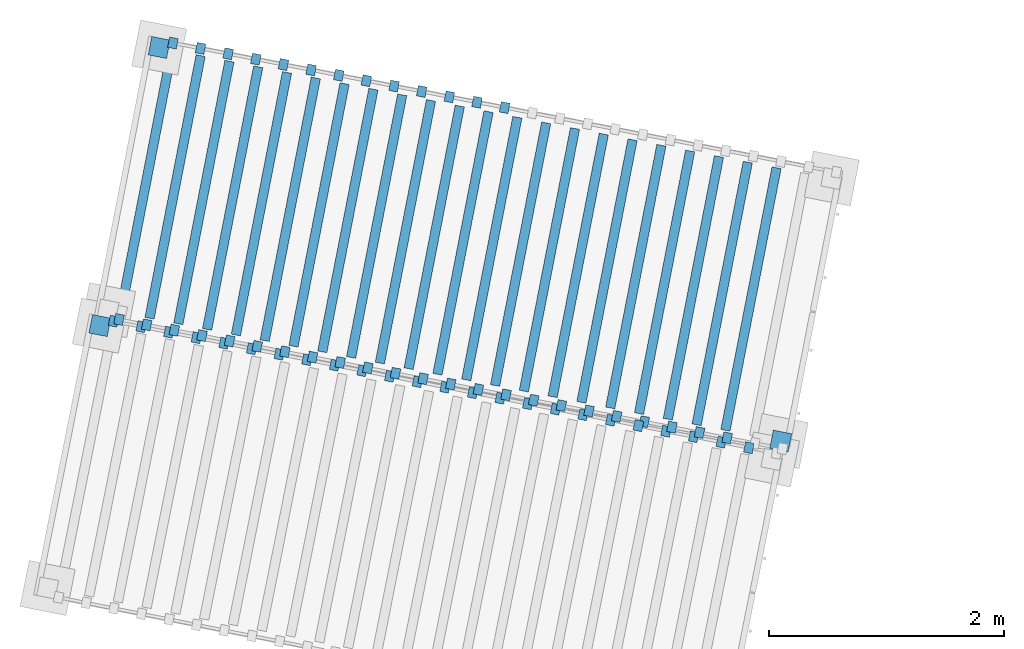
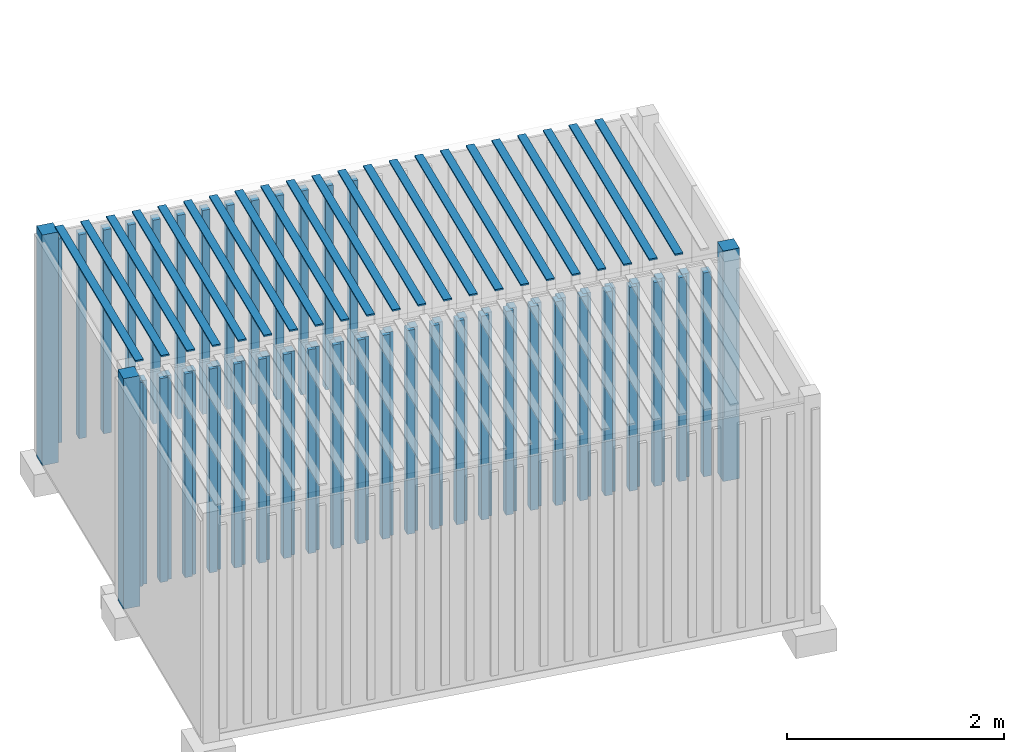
# One storey, part 83 of 142: 85 members, 2 elements without a shape of their own.
"""IFC4 building model written with IfcOpenShell, lengths in metres."""

from ifc_helpers import new_model, si_unit, direction, frame, origin_with_axes, place, context, subcontext, project, spatial, polyline, outline, extrude, material, element, aggregate, save


model = new_model("IFC4")

# Units and contexts
model_context = context("Model", 3, precision=1e-05, world=origin_with_axes(), true_north=direction((0.0, 1.0)))
body_context = subcontext(model_context, "Body", "Model", "MODEL_VIEW")
ifc_project = project(units=[si_unit("AREAUNIT", "SQUARE_METRE"), si_unit("VOLUMEUNIT", "CUBIC_METRE"), si_unit("LENGTHUNIT", "METRE")], contexts=[model_context])

# Site, building, storey
site_placement = place(None, origin_with_axes())
site = spatial("IfcSite", under=ifc_project, at=site_placement, Name="Lares · Rua das Mercês · artigo 4771")
building_placement = place(site_placement, frame((15.0, 9.7, 14.65), z_axis=(0.0, 0.0, 1.0), x_axis=(0.989015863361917, -0.147809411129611, 0.0)))
building = spatial("IfcBuilding", under=site, at=building_placement, Name="Casa Sobreposta")
storey_placement = place(building_placement, origin_with_axes())
storey = spatial("IfcBuildingStorey", under=building, at=storey_placement, Name="00 · Habitação e estacionamento", Elevation=14.65)

# Assembly, members
assembly_1_placement = place(storey_placement, frame((-14.4335953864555, 9.04888612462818, 0.0), z_axis=(0.0, 0.0, 1.0), x_axis=(0.999032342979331, -0.0439815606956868, 0.0)))
assembly_1 = element("IfcElementAssembly", 1, at=assembly_1_placement, inside=storey, Name="Contentor existente 1 · 6 m", ObjectType="EXISTING_SHIPPING_CONTAINER", PredefinedType="USERDEFINED")
ifc_material_1 = material(Name="Contentor · pintura 1", Category="steel")
member_1_placement = place(assembly_1_placement, frame((0.0, 0.0, -1.3), z_axis=(0.0, 0.0, 1.0), x_axis=(1.0, 0.0, 0.0)))
member_1 = element("IfcMember", 2, at=member_1_placement, material=ifc_material_1, Name="Contentor · canto", context=body_context, shape_type="SweptSolid", body=[
    extrude(outline(polyline([(0.16, 2.28), (0.16, 2.44), (0.0, 2.44), (0.0, 2.28), (0.16, 2.28)])), origin_with_axes(), (0.0, 0.0, 1.0), 2.59),
])
member_2_placement = place(assembly_1_placement, frame((0.0, 0.0, -1.3), z_axis=(0.0, 0.0, 1.0), x_axis=(1.0, 0.0, 0.0)))
member_2 = element("IfcMember", 3, at=member_2_placement, material=ifc_material_1, Name="Contentor · canto", context=body_context, shape_type="SweptSolid", body=[
    extrude(outline(polyline([(6.0, 0.0), (6.0, 0.16), (5.84, 0.16), (5.84, 0.0), (6.0, 0.0)])), origin_with_axes(), (0.0, 0.0, 1.0), 2.59),
])
member_3_placement = place(assembly_1_placement, frame((0.0, 0.0, -1.15), z_axis=(0.0, 0.0, 1.0), x_axis=(1.0, 0.0, 0.0)))
member_3 = element("IfcMember", 4, at=member_3_placement, material=ifc_material_1, Name="Contentor · nervura lateral", context=body_context, shape_type="SweptSolid", body=[
    extrude(outline(polyline([(0.225, -0.025), (0.225, 0.065), (0.15, 0.065), (0.15, -0.025), (0.225, -0.025)])), origin_with_axes(), (0.0, 0.0, 1.0), 2.29),
])
member_4_placement = place(assembly_1_placement, frame((0.0, 0.0, -1.15), z_axis=(0.0, 0.0, 1.0), x_axis=(1.0, 0.0, 0.0)))
member_4 = element("IfcMember", 5, at=member_4_placement, material=ifc_material_1, Name="Contentor · nervura lateral", context=body_context, shape_type="SweptSolid", body=[
    extrude(outline(polyline([(0.465, -0.025), (0.465, 0.065), (0.39, 0.065), (0.39, -0.025), (0.465, -0.025)])), origin_with_axes(), (0.0, 0.0, 1.0), 2.29),
])
member_5_placement = place(assembly_1_placement, frame((0.0, 0.0, -1.15), z_axis=(0.0, 0.0, 1.0), x_axis=(1.0, 0.0, 0.0)))
member_5 = element("IfcMember", 6, at=member_5_placement, material=ifc_material_1, Name="Contentor · nervura lateral", context=body_context, shape_type="SweptSolid", body=[
    extrude(outline(polyline([(0.705, -0.025), (0.705, 0.065), (0.63, 0.065), (0.63, -0.025), (0.705, -0.025)])), origin_with_axes(), (0.0, 0.0, 1.0), 2.29),
])
member_6_placement = place(assembly_1_placement, frame((0.0, 0.0, -1.15), z_axis=(0.0, 0.0, 1.0), x_axis=(1.0, 0.0, 0.0)))
member_6 = element("IfcMember", 7, at=member_6_placement, material=ifc_material_1, Name="Contentor · nervura lateral", context=body_context, shape_type="SweptSolid", body=[
    extrude(outline(polyline([(0.945, -0.025), (0.945, 0.065), (0.87, 0.065), (0.87, -0.025), (0.945, -0.025)])), origin_with_axes(), (0.0, 0.0, 1.0), 2.29),
])
member_7_placement = place(assembly_1_placement, frame((0.0, 0.0, -1.15), z_axis=(0.0, 0.0, 1.0), x_axis=(1.0, 0.0, 0.0)))
member_7 = element("IfcMember", 8, at=member_7_placement, material=ifc_material_1, Name="Contentor · nervura lateral", context=body_context, shape_type="SweptSolid", body=[
    extrude(outline(polyline([(1.185, -0.025), (1.185, 0.065), (1.11, 0.065), (1.11, -0.025), (1.185, -0.025)])), origin_with_axes(), (0.0, 0.0, 1.0), 2.29),
])
member_8_placement = place(assembly_1_placement, frame((0.0, 0.0, -1.15), z_axis=(0.0, 0.0, 1.0), x_axis=(1.0, 0.0, 0.0)))
member_8 = element("IfcMember", 9, at=member_8_placement, material=ifc_material_1, Name="Contentor · nervura lateral", context=body_context, shape_type="SweptSolid", body=[
    extrude(outline(polyline([(1.425, -0.025), (1.425, 0.065), (1.35, 0.065), (1.35, -0.025), (1.425, -0.025)])), origin_with_axes(), (0.0, 0.0, 1.0), 2.29),
])
member_9_placement = place(assembly_1_placement, frame((0.0, 0.0, -1.15), z_axis=(0.0, 0.0, 1.0), x_axis=(1.0, 0.0, 0.0)))
member_9 = element("IfcMember", 10, at=member_9_placement, material=ifc_material_1, Name="Contentor · nervura lateral", context=body_context, shape_type="SweptSolid", body=[
    extrude(outline(polyline([(1.665, -0.025), (1.665, 0.065), (1.59, 0.065), (1.59, -0.025), (1.665, -0.025)])), origin_with_axes(), (0.0, 0.0, 1.0), 2.29),
])
member_10_placement = place(assembly_1_placement, frame((0.0, 0.0, -1.15), z_axis=(0.0, 0.0, 1.0), x_axis=(1.0, 0.0, 0.0)))
member_10 = element("IfcMember", 11, at=member_10_placement, material=ifc_material_1, Name="Contentor · nervura lateral", context=body_context, shape_type="SweptSolid", body=[
    extrude(outline(polyline([(1.905, -0.025), (1.905, 0.065), (1.83, 0.065), (1.83, -0.025), (1.905, -0.025)])), origin_with_axes(), (0.0, 0.0, 1.0), 2.29),
])
member_11_placement = place(assembly_1_placement, frame((0.0, 0.0, -1.15), z_axis=(0.0, 0.0, 1.0), x_axis=(1.0, 0.0, 0.0)))
member_11 = element("IfcMember", 12, at=member_11_placement, material=ifc_material_1, Name="Contentor · nervura lateral", context=body_context, shape_type="SweptSolid", body=[
    extrude(outline(polyline([(2.145, -0.025), (2.145, 0.065), (2.07, 0.065), (2.07, -0.025), (2.145, -0.025)])), origin_with_axes(), (0.0, 0.0, 1.0), 2.29),
])
member_12_placement = place(assembly_1_placement, frame((0.0, 0.0, -1.15), z_axis=(0.0, 0.0, 1.0), x_axis=(1.0, 0.0, 0.0)))
member_12 = element("IfcMember", 13, at=member_12_placement, material=ifc_material_1, Name="Contentor · nervura lateral", context=body_context, shape_type="SweptSolid", body=[
    extrude(outline(polyline([(2.385, -0.025), (2.385, 0.065), (2.31, 0.065), (2.31, -0.025), (2.385, -0.025)])), origin_with_axes(), (0.0, 0.0, 1.0), 2.29),
])
member_13_placement = place(assembly_1_placement, frame((0.0, 0.0, -1.15), z_axis=(0.0, 0.0, 1.0), x_axis=(1.0, 0.0, 0.0)))
member_13 = element("IfcMember", 14, at=member_13_placement, material=ifc_material_1, Name="Contentor · nervura lateral", context=body_context, shape_type="SweptSolid", body=[
    extrude(outline(polyline([(2.625, -0.025), (2.625, 0.065), (2.55, 0.065), (2.55, -0.025), (2.625, -0.025)])), origin_with_axes(), (0.0, 0.0, 1.0), 2.29),
])
member_14_placement = place(assembly_1_placement, frame((0.0, 0.0, -1.15), z_axis=(0.0, 0.0, 1.0), x_axis=(1.0, 0.0, 0.0)))
member_14 = element("IfcMember", 15, at=member_14_placement, material=ifc_material_1, Name="Contentor · nervura lateral", context=body_context, shape_type="SweptSolid", body=[
    extrude(outline(polyline([(2.865, -0.025), (2.865, 0.065), (2.79, 0.065), (2.79, -0.025), (2.865, -0.025)])), origin_with_axes(), (0.0, 0.0, 1.0), 2.29),
])
member_15_placement = place(assembly_1_placement, frame((0.0, 0.0, -1.15), z_axis=(0.0, 0.0, 1.0), x_axis=(1.0, 0.0, 0.0)))
member_15 = element("IfcMember", 16, at=member_15_placement, material=ifc_material_1, Name="Contentor · nervura lateral", context=body_context, shape_type="SweptSolid", body=[
    extrude(outline(polyline([(3.105, -0.025), (3.105, 0.065), (3.03, 0.065), (3.03, -0.025), (3.105, -0.025)])), origin_with_axes(), (0.0, 0.0, 1.0), 2.29),
])
member_16_placement = place(assembly_1_placement, frame((0.0, 0.0, -1.15), z_axis=(0.0, 0.0, 1.0), x_axis=(1.0, 0.0, 0.0)))
member_16 = element("IfcMember", 17, at=member_16_placement, material=ifc_material_1, Name="Contentor · nervura lateral", context=body_context, shape_type="SweptSolid", body=[
    extrude(outline(polyline([(3.345, -0.025), (3.345, 0.065), (3.27, 0.065), (3.27, -0.025), (3.345, -0.025)])), origin_with_axes(), (0.0, 0.0, 1.0), 2.29),
])
member_17_placement = place(assembly_1_placement, frame((0.0, 0.0, -1.15), z_axis=(0.0, 0.0, 1.0), x_axis=(1.0, 0.0, 0.0)))
member_17 = element("IfcMember", 18, at=member_17_placement, material=ifc_material_1, Name="Contentor · nervura lateral", context=body_context, shape_type="SweptSolid", body=[
    extrude(outline(polyline([(3.585, -0.025), (3.585, 0.065), (3.51, 0.065), (3.51, -0.025), (3.585, -0.025)])), origin_with_axes(), (0.0, 0.0, 1.0), 2.29),
])
member_18_placement = place(assembly_1_placement, frame((0.0, 0.0, -1.15), z_axis=(0.0, 0.0, 1.0), x_axis=(1.0, 0.0, 0.0)))
member_18 = element("IfcMember", 19, at=member_18_placement, material=ifc_material_1, Name="Contentor · nervura lateral", context=body_context, shape_type="SweptSolid", body=[
    extrude(outline(polyline([(3.825, -0.025), (3.825, 0.065), (3.75, 0.065), (3.75, -0.025), (3.825, -0.025)])), origin_with_axes(), (0.0, 0.0, 1.0), 2.29),
])
member_19_placement = place(assembly_1_placement, frame((0.0, 0.0, -1.15), z_axis=(0.0, 0.0, 1.0), x_axis=(1.0, 0.0, 0.0)))
member_19 = element("IfcMember", 20, at=member_19_placement, material=ifc_material_1, Name="Contentor · nervura lateral", context=body_context, shape_type="SweptSolid", body=[
    extrude(outline(polyline([(4.065, -0.025), (4.065, 0.065), (3.99, 0.065), (3.99, -0.025), (4.065, -0.025)])), origin_with_axes(), (0.0, 0.0, 1.0), 2.29),
])
member_20_placement = place(assembly_1_placement, frame((0.0, 0.0, -1.15), z_axis=(0.0, 0.0, 1.0), x_axis=(1.0, 0.0, 0.0)))
member_20 = element("IfcMember", 21, at=member_20_placement, material=ifc_material_1, Name="Contentor · nervura lateral", context=body_context, shape_type="SweptSolid", body=[
    extrude(outline(polyline([(4.305, -0.025), (4.305, 0.065), (4.23, 0.065), (4.23, -0.025), (4.305, -0.025)])), origin_with_axes(), (0.0, 0.0, 1.0), 2.29),
])
member_21_placement = place(assembly_1_placement, frame((0.0, 0.0, -1.15), z_axis=(0.0, 0.0, 1.0), x_axis=(1.0, 0.0, 0.0)))
member_21 = element("IfcMember", 22, at=member_21_placement, material=ifc_material_1, Name="Contentor · nervura lateral", context=body_context, shape_type="SweptSolid", body=[
    extrude(outline(polyline([(4.545, -0.025), (4.545, 0.065), (4.47, 0.065), (4.47, -0.025), (4.545, -0.025)])), origin_with_axes(), (0.0, 0.0, 1.0), 2.29),
])
member_22_placement = place(assembly_1_placement, frame((0.0, 0.0, -1.15), z_axis=(0.0, 0.0, 1.0), x_axis=(1.0, 0.0, 0.0)))
member_22 = element("IfcMember", 23, at=member_22_placement, material=ifc_material_1, Name="Contentor · nervura lateral", context=body_context, shape_type="SweptSolid", body=[
    extrude(outline(polyline([(4.785, -0.025), (4.785, 0.065), (4.71, 0.065), (4.71, -0.025), (4.785, -0.025)])), origin_with_axes(), (0.0, 0.0, 1.0), 2.29),
])
member_23_placement = place(assembly_1_placement, frame((0.0, 0.0, -1.15), z_axis=(0.0, 0.0, 1.0), x_axis=(1.0, 0.0, 0.0)))
member_23 = element("IfcMember", 24, at=member_23_placement, material=ifc_material_1, Name="Contentor · nervura lateral", context=body_context, shape_type="SweptSolid", body=[
    extrude(outline(polyline([(5.025, -0.025), (5.025, 0.065), (4.95, 0.065), (4.95, -0.025), (5.025, -0.025)])), origin_with_axes(), (0.0, 0.0, 1.0), 2.29),
])
member_24_placement = place(assembly_1_placement, frame((0.0, 0.0, -1.15), z_axis=(0.0, 0.0, 1.0), x_axis=(1.0, 0.0, 0.0)))
member_24 = element("IfcMember", 25, at=member_24_placement, material=ifc_material_1, Name="Contentor · nervura lateral", context=body_context, shape_type="SweptSolid", body=[
    extrude(outline(polyline([(5.265, -0.025), (5.265, 0.065), (5.19, 0.065), (5.19, -0.025), (5.265, -0.025)])), origin_with_axes(), (0.0, 0.0, 1.0), 2.29),
])
member_25_placement = place(assembly_1_placement, frame((0.0, 0.0, -1.15), z_axis=(0.0, 0.0, 1.0), x_axis=(1.0, 0.0, 0.0)))
member_25 = element("IfcMember", 26, at=member_25_placement, material=ifc_material_1, Name="Contentor · nervura lateral", context=body_context, shape_type="SweptSolid", body=[
    extrude(outline(polyline([(5.505, -0.025), (5.505, 0.065), (5.43, 0.065), (5.43, -0.025), (5.505, -0.025)])), origin_with_axes(), (0.0, 0.0, 1.0), 2.29),
])
member_26_placement = place(assembly_1_placement, frame((0.0, 0.0, -1.15), z_axis=(0.0, 0.0, 1.0), x_axis=(1.0, 0.0, 0.0)))
member_26 = element("IfcMember", 27, at=member_26_placement, material=ifc_material_1, Name="Contentor · nervura lateral", context=body_context, shape_type="SweptSolid", body=[
    extrude(outline(polyline([(0.225, 2.375), (0.225, 2.465), (0.15, 2.465), (0.15, 2.375), (0.225, 2.375)])), origin_with_axes(), (0.0, 0.0, 1.0), 2.29),
])
member_27_placement = place(assembly_1_placement, frame((0.0, 0.0, -1.15), z_axis=(0.0, 0.0, 1.0), x_axis=(1.0, 0.0, 0.0)))
member_27 = element("IfcMember", 28, at=member_27_placement, material=ifc_material_1, Name="Contentor · nervura lateral", context=body_context, shape_type="SweptSolid", body=[
    extrude(outline(polyline([(0.465, 2.375), (0.465, 2.465), (0.39, 2.465), (0.39, 2.375), (0.465, 2.375)])), origin_with_axes(), (0.0, 0.0, 1.0), 2.29),
])
member_28_placement = place(assembly_1_placement, frame((0.0, 0.0, -1.15), z_axis=(0.0, 0.0, 1.0), x_axis=(1.0, 0.0, 0.0)))
member_28 = element("IfcMember", 29, at=member_28_placement, material=ifc_material_1, Name="Contentor · nervura lateral", context=body_context, shape_type="SweptSolid", body=[
    extrude(outline(polyline([(0.705, 2.375), (0.705, 2.465), (0.63, 2.465), (0.63, 2.375), (0.705, 2.375)])), origin_with_axes(), (0.0, 0.0, 1.0), 2.29),
])
member_29_placement = place(assembly_1_placement, frame((0.0, 0.0, -1.15), z_axis=(0.0, 0.0, 1.0), x_axis=(1.0, 0.0, 0.0)))
member_29 = element("IfcMember", 30, at=member_29_placement, material=ifc_material_1, Name="Contentor · nervura lateral", context=body_context, shape_type="SweptSolid", body=[
    extrude(outline(polyline([(0.945, 2.375), (0.945, 2.465), (0.87, 2.465), (0.87, 2.375), (0.945, 2.375)])), origin_with_axes(), (0.0, 0.0, 1.0), 2.29),
])
member_30_placement = place(assembly_1_placement, frame((0.0, 0.0, -1.15), z_axis=(0.0, 0.0, 1.0), x_axis=(1.0, 0.0, 0.0)))
member_30 = element("IfcMember", 31, at=member_30_placement, material=ifc_material_1, Name="Contentor · nervura lateral", context=body_context, shape_type="SweptSolid", body=[
    extrude(outline(polyline([(1.185, 2.375), (1.185, 2.465), (1.11, 2.465), (1.11, 2.375), (1.185, 2.375)])), origin_with_axes(), (0.0, 0.0, 1.0), 2.29),
])
member_31_placement = place(assembly_1_placement, frame((0.0, 0.0, -1.15), z_axis=(0.0, 0.0, 1.0), x_axis=(1.0, 0.0, 0.0)))
member_31 = element("IfcMember", 32, at=member_31_placement, material=ifc_material_1, Name="Contentor · nervura lateral", context=body_context, shape_type="SweptSolid", body=[
    extrude(outline(polyline([(1.425, 2.375), (1.425, 2.465), (1.35, 2.465), (1.35, 2.375), (1.425, 2.375)])), origin_with_axes(), (0.0, 0.0, 1.0), 2.29),
])
member_32_placement = place(assembly_1_placement, frame((0.0, 0.0, -1.15), z_axis=(0.0, 0.0, 1.0), x_axis=(1.0, 0.0, 0.0)))
member_32 = element("IfcMember", 33, at=member_32_placement, material=ifc_material_1, Name="Contentor · nervura lateral", context=body_context, shape_type="SweptSolid", body=[
    extrude(outline(polyline([(1.665, 2.375), (1.665, 2.465), (1.59, 2.465), (1.59, 2.375), (1.665, 2.375)])), origin_with_axes(), (0.0, 0.0, 1.0), 2.29),
])
member_33_placement = place(assembly_1_placement, frame((0.0, 0.0, -1.15), z_axis=(0.0, 0.0, 1.0), x_axis=(1.0, 0.0, 0.0)))
member_33 = element("IfcMember", 34, at=member_33_placement, material=ifc_material_1, Name="Contentor · nervura lateral", context=body_context, shape_type="SweptSolid", body=[
    extrude(outline(polyline([(1.905, 2.375), (1.905, 2.465), (1.83, 2.465), (1.83, 2.375), (1.905, 2.375)])), origin_with_axes(), (0.0, 0.0, 1.0), 2.29),
])
member_34_placement = place(assembly_1_placement, frame((0.0, 0.0, -1.15), z_axis=(0.0, 0.0, 1.0), x_axis=(1.0, 0.0, 0.0)))
member_34 = element("IfcMember", 35, at=member_34_placement, material=ifc_material_1, Name="Contentor · nervura lateral", context=body_context, shape_type="SweptSolid", body=[
    extrude(outline(polyline([(2.145, 2.375), (2.145, 2.465), (2.07, 2.465), (2.07, 2.375), (2.145, 2.375)])), origin_with_axes(), (0.0, 0.0, 1.0), 2.29),
])
member_35_placement = place(assembly_1_placement, frame((0.0, 0.0, -1.15), z_axis=(0.0, 0.0, 1.0), x_axis=(1.0, 0.0, 0.0)))
member_35 = element("IfcMember", 36, at=member_35_placement, material=ifc_material_1, Name="Contentor · nervura lateral", context=body_context, shape_type="SweptSolid", body=[
    extrude(outline(polyline([(2.385, 2.375), (2.385, 2.465), (2.31, 2.465), (2.31, 2.375), (2.385, 2.375)])), origin_with_axes(), (0.0, 0.0, 1.0), 2.29),
])
member_36_placement = place(assembly_1_placement, frame((0.0, 0.0, -1.15), z_axis=(0.0, 0.0, 1.0), x_axis=(1.0, 0.0, 0.0)))
member_36 = element("IfcMember", 37, at=member_36_placement, material=ifc_material_1, Name="Contentor · nervura lateral", context=body_context, shape_type="SweptSolid", body=[
    extrude(outline(polyline([(2.625, 2.375), (2.625, 2.465), (2.55, 2.465), (2.55, 2.375), (2.625, 2.375)])), origin_with_axes(), (0.0, 0.0, 1.0), 2.29),
])
member_37_placement = place(assembly_1_placement, frame((0.0, 0.0, -1.15), z_axis=(0.0, 0.0, 1.0), x_axis=(1.0, 0.0, 0.0)))
member_37 = element("IfcMember", 38, at=member_37_placement, material=ifc_material_1, Name="Contentor · nervura lateral", context=body_context, shape_type="SweptSolid", body=[
    extrude(outline(polyline([(2.865, 2.375), (2.865, 2.465), (2.79, 2.465), (2.79, 2.375), (2.865, 2.375)])), origin_with_axes(), (0.0, 0.0, 1.0), 2.29),
])
member_38_placement = place(assembly_1_placement, frame((0.0, 0.0, -1.15), z_axis=(0.0, 0.0, 1.0), x_axis=(1.0, 0.0, 0.0)))
member_38 = element("IfcMember", 39, at=member_38_placement, material=ifc_material_1, Name="Contentor · nervura lateral", context=body_context, shape_type="SweptSolid", body=[
    extrude(outline(polyline([(3.105, 2.375), (3.105, 2.465), (3.03, 2.465), (3.03, 2.375), (3.105, 2.375)])), origin_with_axes(), (0.0, 0.0, 1.0), 2.29),
])
member_39_placement = place(assembly_1_placement, frame((0.0, 0.0, 1.285), z_axis=(0.0, 0.0, 1.0), x_axis=(1.0, 0.0, 0.0)))
member_39 = element("IfcMember", 40, at=member_39_placement, material=ifc_material_1, Name="Contentor · nervura cobertura", context=body_context, shape_type="SweptSolid", body=[
    extrude(outline(polyline([(0.23, 0.08), (0.23, 2.36), (0.15, 2.36), (0.15, 0.08), (0.23, 0.08)])), origin_with_axes(), (0.0, 0.0, 1.0), 0.018),
])
member_40_placement = place(assembly_1_placement, frame((0.0, 0.0, 1.285), z_axis=(0.0, 0.0, 1.0), x_axis=(1.0, 0.0, 0.0)))
member_40 = element("IfcMember", 41, at=member_40_placement, material=ifc_material_1, Name="Contentor · nervura cobertura", context=body_context, shape_type="SweptSolid", body=[
    extrude(outline(polyline([(0.48, 0.08), (0.48, 2.36), (0.4, 2.36), (0.4, 0.08), (0.48, 0.08)])), origin_with_axes(), (0.0, 0.0, 1.0), 0.018),
])
member_41_placement = place(assembly_1_placement, frame((0.0, 0.0, 1.285), z_axis=(0.0, 0.0, 1.0), x_axis=(1.0, 0.0, 0.0)))
member_41 = element("IfcMember", 42, at=member_41_placement, material=ifc_material_1, Name="Contentor · nervura cobertura", context=body_context, shape_type="SweptSolid", body=[
    extrude(outline(polyline([(0.73, 0.08), (0.73, 2.36), (0.65, 2.36), (0.65, 0.08), (0.73, 0.08)])), origin_with_axes(), (0.0, 0.0, 1.0), 0.018),
])
member_42_placement = place(assembly_1_placement, frame((0.0, 0.0, 1.285), z_axis=(0.0, 0.0, 1.0), x_axis=(1.0, 0.0, 0.0)))
member_42 = element("IfcMember", 43, at=member_42_placement, material=ifc_material_1, Name="Contentor · nervura cobertura", context=body_context, shape_type="SweptSolid", body=[
    extrude(outline(polyline([(0.98, 0.08), (0.98, 2.36), (0.9, 2.36), (0.9, 0.08), (0.98, 0.08)])), origin_with_axes(), (0.0, 0.0, 1.0), 0.018),
])
member_43_placement = place(assembly_1_placement, frame((0.0, 0.0, 1.285), z_axis=(0.0, 0.0, 1.0), x_axis=(1.0, 0.0, 0.0)))
member_43 = element("IfcMember", 44, at=member_43_placement, material=ifc_material_1, Name="Contentor · nervura cobertura", context=body_context, shape_type="SweptSolid", body=[
    extrude(outline(polyline([(1.23, 0.08), (1.23, 2.36), (1.15, 2.36), (1.15, 0.08), (1.23, 0.08)])), origin_with_axes(), (0.0, 0.0, 1.0), 0.018),
])
member_44_placement = place(assembly_1_placement, frame((0.0, 0.0, 1.285), z_axis=(0.0, 0.0, 1.0), x_axis=(1.0, 0.0, 0.0)))
member_44 = element("IfcMember", 45, at=member_44_placement, material=ifc_material_1, Name="Contentor · nervura cobertura", context=body_context, shape_type="SweptSolid", body=[
    extrude(outline(polyline([(1.48, 0.08), (1.48, 2.36), (1.4, 2.36), (1.4, 0.08), (1.48, 0.08)])), origin_with_axes(), (0.0, 0.0, 1.0), 0.018),
])
member_45_placement = place(assembly_1_placement, frame((0.0, 0.0, 1.285), z_axis=(0.0, 0.0, 1.0), x_axis=(1.0, 0.0, 0.0)))
member_45 = element("IfcMember", 46, at=member_45_placement, material=ifc_material_1, Name="Contentor · nervura cobertura", context=body_context, shape_type="SweptSolid", body=[
    extrude(outline(polyline([(1.73, 0.08), (1.73, 2.36), (1.65, 2.36), (1.65, 0.08), (1.73, 0.08)])), origin_with_axes(), (0.0, 0.0, 1.0), 0.018),
])
member_46_placement = place(assembly_1_placement, frame((0.0, 0.0, 1.285), z_axis=(0.0, 0.0, 1.0), x_axis=(1.0, 0.0, 0.0)))
member_46 = element("IfcMember", 47, at=member_46_placement, material=ifc_material_1, Name="Contentor · nervura cobertura", context=body_context, shape_type="SweptSolid", body=[
    extrude(outline(polyline([(1.98, 0.08), (1.98, 2.36), (1.9, 2.36), (1.9, 0.08), (1.98, 0.08)])), origin_with_axes(), (0.0, 0.0, 1.0), 0.018),
])
member_47_placement = place(assembly_1_placement, frame((0.0, 0.0, 1.285), z_axis=(0.0, 0.0, 1.0), x_axis=(1.0, 0.0, 0.0)))
member_47 = element("IfcMember", 48, at=member_47_placement, material=ifc_material_1, Name="Contentor · nervura cobertura", context=body_context, shape_type="SweptSolid", body=[
    extrude(outline(polyline([(2.23, 0.08), (2.23, 2.36), (2.15, 2.36), (2.15, 0.08), (2.23, 0.08)])), origin_with_axes(), (0.0, 0.0, 1.0), 0.018),
])
member_48_placement = place(assembly_1_placement, frame((0.0, 0.0, 1.285), z_axis=(0.0, 0.0, 1.0), x_axis=(1.0, 0.0, 0.0)))
member_48 = element("IfcMember", 49, at=member_48_placement, material=ifc_material_1, Name="Contentor · nervura cobertura", context=body_context, shape_type="SweptSolid", body=[
    extrude(outline(polyline([(2.48, 0.08), (2.48, 2.36), (2.4, 2.36), (2.4, 0.08), (2.48, 0.08)])), origin_with_axes(), (0.0, 0.0, 1.0), 0.018),
])
member_49_placement = place(assembly_1_placement, frame((0.0, 0.0, 1.285), z_axis=(0.0, 0.0, 1.0), x_axis=(1.0, 0.0, 0.0)))
member_49 = element("IfcMember", 50, at=member_49_placement, material=ifc_material_1, Name="Contentor · nervura cobertura", context=body_context, shape_type="SweptSolid", body=[
    extrude(outline(polyline([(2.73, 0.08), (2.73, 2.36), (2.65, 2.36), (2.65, 0.08), (2.73, 0.08)])), origin_with_axes(), (0.0, 0.0, 1.0), 0.018),
])
member_50_placement = place(assembly_1_placement, frame((0.0, 0.0, 1.285), z_axis=(0.0, 0.0, 1.0), x_axis=(1.0, 0.0, 0.0)))
member_50 = element("IfcMember", 51, at=member_50_placement, material=ifc_material_1, Name="Contentor · nervura cobertura", context=body_context, shape_type="SweptSolid", body=[
    extrude(outline(polyline([(2.98, 0.08), (2.98, 2.36), (2.9, 2.36), (2.9, 0.08), (2.98, 0.08)])), origin_with_axes(), (0.0, 0.0, 1.0), 0.018),
])
member_51_placement = place(assembly_1_placement, frame((0.0, 0.0, 1.285), z_axis=(0.0, 0.0, 1.0), x_axis=(1.0, 0.0, 0.0)))
member_51 = element("IfcMember", 52, at=member_51_placement, material=ifc_material_1, Name="Contentor · nervura cobertura", context=body_context, shape_type="SweptSolid", body=[
    extrude(outline(polyline([(3.23, 0.08), (3.23, 2.36), (3.15, 2.36), (3.15, 0.08), (3.23, 0.08)])), origin_with_axes(), (0.0, 0.0, 1.0), 0.018),
])
member_52_placement = place(assembly_1_placement, frame((0.0, 0.0, 1.285), z_axis=(0.0, 0.0, 1.0), x_axis=(1.0, 0.0, 0.0)))
member_52 = element("IfcMember", 53, at=member_52_placement, material=ifc_material_1, Name="Contentor · nervura cobertura", context=body_context, shape_type="SweptSolid", body=[
    extrude(outline(polyline([(3.48, 0.08), (3.48, 2.36), (3.4, 2.36), (3.4, 0.08), (3.48, 0.08)])), origin_with_axes(), (0.0, 0.0, 1.0), 0.018),
])
member_53_placement = place(assembly_1_placement, frame((0.0, 0.0, 1.285), z_axis=(0.0, 0.0, 1.0), x_axis=(1.0, 0.0, 0.0)))
member_53 = element("IfcMember", 54, at=member_53_placement, material=ifc_material_1, Name="Contentor · nervura cobertura", context=body_context, shape_type="SweptSolid", body=[
    extrude(outline(polyline([(3.73, 0.08), (3.73, 2.36), (3.65, 2.36), (3.65, 0.08), (3.73, 0.08)])), origin_with_axes(), (0.0, 0.0, 1.0), 0.018),
])
member_54_placement = place(assembly_1_placement, frame((0.0, 0.0, 1.285), z_axis=(0.0, 0.0, 1.0), x_axis=(1.0, 0.0, 0.0)))
member_54 = element("IfcMember", 55, at=member_54_placement, material=ifc_material_1, Name="Contentor · nervura cobertura", context=body_context, shape_type="SweptSolid", body=[
    extrude(outline(polyline([(3.98, 0.08), (3.98, 2.36), (3.9, 2.36), (3.9, 0.08), (3.98, 0.08)])), origin_with_axes(), (0.0, 0.0, 1.0), 0.018),
])
member_55_placement = place(assembly_1_placement, frame((0.0, 0.0, 1.285), z_axis=(0.0, 0.0, 1.0), x_axis=(1.0, 0.0, 0.0)))
member_55 = element("IfcMember", 56, at=member_55_placement, material=ifc_material_1, Name="Contentor · nervura cobertura", context=body_context, shape_type="SweptSolid", body=[
    extrude(outline(polyline([(4.23, 0.08), (4.23, 2.36), (4.15, 2.36), (4.15, 0.08), (4.23, 0.08)])), origin_with_axes(), (0.0, 0.0, 1.0), 0.018),
])
member_56_placement = place(assembly_1_placement, frame((0.0, 0.0, 1.285), z_axis=(0.0, 0.0, 1.0), x_axis=(1.0, 0.0, 0.0)))
member_56 = element("IfcMember", 57, at=member_56_placement, material=ifc_material_1, Name="Contentor · nervura cobertura", context=body_context, shape_type="SweptSolid", body=[
    extrude(outline(polyline([(4.48, 0.08), (4.48, 2.36), (4.4, 2.36), (4.4, 0.08), (4.48, 0.08)])), origin_with_axes(), (0.0, 0.0, 1.0), 0.018),
])
member_57_placement = place(assembly_1_placement, frame((0.0, 0.0, 1.285), z_axis=(0.0, 0.0, 1.0), x_axis=(1.0, 0.0, 0.0)))
member_57 = element("IfcMember", 58, at=member_57_placement, material=ifc_material_1, Name="Contentor · nervura cobertura", context=body_context, shape_type="SweptSolid", body=[
    extrude(outline(polyline([(4.73, 0.08), (4.73, 2.36), (4.65, 2.36), (4.65, 0.08), (4.73, 0.08)])), origin_with_axes(), (0.0, 0.0, 1.0), 0.018),
])
member_58_placement = place(assembly_1_placement, frame((0.0, 0.0, 1.285), z_axis=(0.0, 0.0, 1.0), x_axis=(1.0, 0.0, 0.0)))
member_58 = element("IfcMember", 59, at=member_58_placement, material=ifc_material_1, Name="Contentor · nervura cobertura", context=body_context, shape_type="SweptSolid", body=[
    extrude(outline(polyline([(4.98, 0.08), (4.98, 2.36), (4.9, 2.36), (4.9, 0.08), (4.98, 0.08)])), origin_with_axes(), (0.0, 0.0, 1.0), 0.018),
])
member_59_placement = place(assembly_1_placement, frame((0.0, 0.0, 1.285), z_axis=(0.0, 0.0, 1.0), x_axis=(1.0, 0.0, 0.0)))
member_59 = element("IfcMember", 60, at=member_59_placement, material=ifc_material_1, Name="Contentor · nervura cobertura", context=body_context, shape_type="SweptSolid", body=[
    extrude(outline(polyline([(5.23, 0.08), (5.23, 2.36), (5.15, 2.36), (5.15, 0.08), (5.23, 0.08)])), origin_with_axes(), (0.0, 0.0, 1.0), 0.018),
])
member_60_placement = place(assembly_1_placement, frame((0.0, 0.0, 1.285), z_axis=(0.0, 0.0, 1.0), x_axis=(1.0, 0.0, 0.0)))
member_60 = element("IfcMember", 61, at=member_60_placement, material=ifc_material_1, Name="Contentor · nervura cobertura", context=body_context, shape_type="SweptSolid", body=[
    extrude(outline(polyline([(5.48, 0.08), (5.48, 2.36), (5.4, 2.36), (5.4, 0.08), (5.48, 0.08)])), origin_with_axes(), (0.0, 0.0, 1.0), 0.018),
])
aggregate(assembly_1, [member_1, member_2, member_3, member_4, member_5, member_6, member_7, member_8, member_9, member_10, member_11, member_12, member_13, member_14, member_15, member_16, member_17, member_18, member_19, member_20, member_21, member_22, member_23, member_24, member_25, member_26, member_27, member_28, member_29, member_30, member_31, member_32, member_33, member_34, member_35, member_36, member_37, member_38, member_39, member_40, member_41, member_42, member_43, member_44, member_45, member_46, member_47, member_48, member_49, member_50, member_51, member_52, member_53, member_54, member_55, member_56, member_57, member_58, member_59, member_60])

assembly_2_placement = place(storey_placement, frame((-14.5932944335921, 6.63122214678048, 0.0), z_axis=(0.0, 0.0, 1.0), x_axis=(0.998832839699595, -0.0483007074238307, 0.0)))
assembly_2 = element("IfcElementAssembly", 62, at=assembly_2_placement, inside=storey, Name="Contentor existente 2 · 6 m", ObjectType="EXISTING_SHIPPING_CONTAINER", PredefinedType="USERDEFINED")
ifc_material_2 = material(Name="Contentor · pintura 2", Category="steel")
member_61_placement = place(assembly_2_placement, frame((0.0, 0.0, -1.3), z_axis=(0.0, 0.0, 1.0), x_axis=(1.0, 0.0, 0.0)))
member_61 = element("IfcMember", 63, at=member_61_placement, material=ifc_material_2, Name="Contentor · canto", context=body_context, shape_type="SweptSolid", body=[
    extrude(outline(polyline([(0.16, 2.28), (0.16, 2.44), (0.0, 2.44), (0.0, 2.28), (0.16, 2.28)])), origin_with_axes(), (0.0, 0.0, 1.0), 2.59),
])
member_62_placement = place(assembly_2_placement, frame((0.0, 0.0, -1.15), z_axis=(0.0, 0.0, 1.0), x_axis=(1.0, 0.0, 0.0)))
member_62 = element("IfcMember", 64, at=member_62_placement, material=ifc_material_2, Name="Contentor · nervura lateral", context=body_context, shape_type="SweptSolid", body=[
    extrude(outline(polyline([(0.225, 2.375), (0.225, 2.465), (0.15, 2.465), (0.15, 2.375), (0.225, 2.375)])), origin_with_axes(), (0.0, 0.0, 1.0), 2.29),
])
member_63_placement = place(assembly_2_placement, frame((0.0, 0.0, -1.15), z_axis=(0.0, 0.0, 1.0), x_axis=(1.0, 0.0, 0.0)))
member_63 = element("IfcMember", 65, at=member_63_placement, material=ifc_material_2, Name="Contentor · nervura lateral", context=body_context, shape_type="SweptSolid", body=[
    extrude(outline(polyline([(0.465, 2.375), (0.465, 2.465), (0.39, 2.465), (0.39, 2.375), (0.465, 2.375)])), origin_with_axes(), (0.0, 0.0, 1.0), 2.29),
])
member_64_placement = place(assembly_2_placement, frame((0.0, 0.0, -1.15), z_axis=(0.0, 0.0, 1.0), x_axis=(1.0, 0.0, 0.0)))
member_64 = element("IfcMember", 66, at=member_64_placement, material=ifc_material_2, Name="Contentor · nervura lateral", context=body_context, shape_type="SweptSolid", body=[
    extrude(outline(polyline([(0.705, 2.375), (0.705, 2.465), (0.63, 2.465), (0.63, 2.375), (0.705, 2.375)])), origin_with_axes(), (0.0, 0.0, 1.0), 2.29),
])
member_65_placement = place(assembly_2_placement, frame((0.0, 0.0, -1.15), z_axis=(0.0, 0.0, 1.0), x_axis=(1.0, 0.0, 0.0)))
member_65 = element("IfcMember", 67, at=member_65_placement, material=ifc_material_2, Name="Contentor · nervura lateral", context=body_context, shape_type="SweptSolid", body=[
    extrude(outline(polyline([(0.945, 2.375), (0.945, 2.465), (0.87, 2.465), (0.87, 2.375), (0.945, 2.375)])), origin_with_axes(), (0.0, 0.0, 1.0), 2.29),
])
member_66_placement = place(assembly_2_placement, frame((0.0, 0.0, -1.15), z_axis=(0.0, 0.0, 1.0), x_axis=(1.0, 0.0, 0.0)))
member_66 = element("IfcMember", 68, at=member_66_placement, material=ifc_material_2, Name="Contentor · nervura lateral", context=body_context, shape_type="SweptSolid", body=[
    extrude(outline(polyline([(1.185, 2.375), (1.185, 2.465), (1.11, 2.465), (1.11, 2.375), (1.185, 2.375)])), origin_with_axes(), (0.0, 0.0, 1.0), 2.29),
])
member_67_placement = place(assembly_2_placement, frame((0.0, 0.0, -1.15), z_axis=(0.0, 0.0, 1.0), x_axis=(1.0, 0.0, 0.0)))
member_67 = element("IfcMember", 69, at=member_67_placement, material=ifc_material_2, Name="Contentor · nervura lateral", context=body_context, shape_type="SweptSolid", body=[
    extrude(outline(polyline([(1.425, 2.375), (1.425, 2.465), (1.35, 2.465), (1.35, 2.375), (1.425, 2.375)])), origin_with_axes(), (0.0, 0.0, 1.0), 2.29),
])
member_68_placement = place(assembly_2_placement, frame((0.0, 0.0, -1.15), z_axis=(0.0, 0.0, 1.0), x_axis=(1.0, 0.0, 0.0)))
member_68 = element("IfcMember", 70, at=member_68_placement, material=ifc_material_2, Name="Contentor · nervura lateral", context=body_context, shape_type="SweptSolid", body=[
    extrude(outline(polyline([(1.665, 2.375), (1.665, 2.465), (1.59, 2.465), (1.59, 2.375), (1.665, 2.375)])), origin_with_axes(), (0.0, 0.0, 1.0), 2.29),
])
member_69_placement = place(assembly_2_placement, frame((0.0, 0.0, -1.15), z_axis=(0.0, 0.0, 1.0), x_axis=(1.0, 0.0, 0.0)))
member_69 = element("IfcMember", 71, at=member_69_placement, material=ifc_material_2, Name="Contentor · nervura lateral", context=body_context, shape_type="SweptSolid", body=[
    extrude(outline(polyline([(1.905, 2.375), (1.905, 2.465), (1.83, 2.465), (1.83, 2.375), (1.905, 2.375)])), origin_with_axes(), (0.0, 0.0, 1.0), 2.29),
])
member_70_placement = place(assembly_2_placement, frame((0.0, 0.0, -1.15), z_axis=(0.0, 0.0, 1.0), x_axis=(1.0, 0.0, 0.0)))
member_70 = element("IfcMember", 72, at=member_70_placement, material=ifc_material_2, Name="Contentor · nervura lateral", context=body_context, shape_type="SweptSolid", body=[
    extrude(outline(polyline([(2.145, 2.375), (2.145, 2.465), (2.07, 2.465), (2.07, 2.375), (2.145, 2.375)])), origin_with_axes(), (0.0, 0.0, 1.0), 2.29),
])
member_71_placement = place(assembly_2_placement, frame((0.0, 0.0, -1.15), z_axis=(0.0, 0.0, 1.0), x_axis=(1.0, 0.0, 0.0)))
member_71 = element("IfcMember", 73, at=member_71_placement, material=ifc_material_2, Name="Contentor · nervura lateral", context=body_context, shape_type="SweptSolid", body=[
    extrude(outline(polyline([(2.385, 2.375), (2.385, 2.465), (2.31, 2.465), (2.31, 2.375), (2.385, 2.375)])), origin_with_axes(), (0.0, 0.0, 1.0), 2.29),
])
member_72_placement = place(assembly_2_placement, frame((0.0, 0.0, -1.15), z_axis=(0.0, 0.0, 1.0), x_axis=(1.0, 0.0, 0.0)))
member_72 = element("IfcMember", 74, at=member_72_placement, material=ifc_material_2, Name="Contentor · nervura lateral", context=body_context, shape_type="SweptSolid", body=[
    extrude(outline(polyline([(2.625, 2.375), (2.625, 2.465), (2.55, 2.465), (2.55, 2.375), (2.625, 2.375)])), origin_with_axes(), (0.0, 0.0, 1.0), 2.29),
])
member_73_placement = place(assembly_2_placement, frame((0.0, 0.0, -1.15), z_axis=(0.0, 0.0, 1.0), x_axis=(1.0, 0.0, 0.0)))
member_73 = element("IfcMember", 75, at=member_73_placement, material=ifc_material_2, Name="Contentor · nervura lateral", context=body_context, shape_type="SweptSolid", body=[
    extrude(outline(polyline([(2.865, 2.375), (2.865, 2.465), (2.79, 2.465), (2.79, 2.375), (2.865, 2.375)])), origin_with_axes(), (0.0, 0.0, 1.0), 2.29),
])
member_74_placement = place(assembly_2_placement, frame((0.0, 0.0, -1.15), z_axis=(0.0, 0.0, 1.0), x_axis=(1.0, 0.0, 0.0)))
member_74 = element("IfcMember", 76, at=member_74_placement, material=ifc_material_2, Name="Contentor · nervura lateral", context=body_context, shape_type="SweptSolid", body=[
    extrude(outline(polyline([(3.105, 2.375), (3.105, 2.465), (3.03, 2.465), (3.03, 2.375), (3.105, 2.375)])), origin_with_axes(), (0.0, 0.0, 1.0), 2.29),
])
member_75_placement = place(assembly_2_placement, frame((0.0, 0.0, -1.15), z_axis=(0.0, 0.0, 1.0), x_axis=(1.0, 0.0, 0.0)))
member_75 = element("IfcMember", 77, at=member_75_placement, material=ifc_material_2, Name="Contentor · nervura lateral", context=body_context, shape_type="SweptSolid", body=[
    extrude(outline(polyline([(3.345, 2.375), (3.345, 2.465), (3.27, 2.465), (3.27, 2.375), (3.345, 2.375)])), origin_with_axes(), (0.0, 0.0, 1.0), 2.29),
])
member_76_placement = place(assembly_2_placement, frame((0.0, 0.0, -1.15), z_axis=(0.0, 0.0, 1.0), x_axis=(1.0, 0.0, 0.0)))
member_76 = element("IfcMember", 78, at=member_76_placement, material=ifc_material_2, Name="Contentor · nervura lateral", context=body_context, shape_type="SweptSolid", body=[
    extrude(outline(polyline([(3.585, 2.375), (3.585, 2.465), (3.51, 2.465), (3.51, 2.375), (3.585, 2.375)])), origin_with_axes(), (0.0, 0.0, 1.0), 2.29),
])
member_77_placement = place(assembly_2_placement, frame((0.0, 0.0, -1.15), z_axis=(0.0, 0.0, 1.0), x_axis=(1.0, 0.0, 0.0)))
member_77 = element("IfcMember", 79, at=member_77_placement, material=ifc_material_2, Name="Contentor · nervura lateral", context=body_context, shape_type="SweptSolid", body=[
    extrude(outline(polyline([(3.825, 2.375), (3.825, 2.465), (3.75, 2.465), (3.75, 2.375), (3.825, 2.375)])), origin_with_axes(), (0.0, 0.0, 1.0), 2.29),
])
member_78_placement = place(assembly_2_placement, frame((0.0, 0.0, -1.15), z_axis=(0.0, 0.0, 1.0), x_axis=(1.0, 0.0, 0.0)))
member_78 = element("IfcMember", 80, at=member_78_placement, material=ifc_material_2, Name="Contentor · nervura lateral", context=body_context, shape_type="SweptSolid", body=[
    extrude(outline(polyline([(4.065, 2.375), (4.065, 2.465), (3.99, 2.465), (3.99, 2.375), (4.065, 2.375)])), origin_with_axes(), (0.0, 0.0, 1.0), 2.29),
])
member_79_placement = place(assembly_2_placement, frame((0.0, 0.0, -1.15), z_axis=(0.0, 0.0, 1.0), x_axis=(1.0, 0.0, 0.0)))
member_79 = element("IfcMember", 81, at=member_79_placement, material=ifc_material_2, Name="Contentor · nervura lateral", context=body_context, shape_type="SweptSolid", body=[
    extrude(outline(polyline([(4.305, 2.375), (4.305, 2.465), (4.23, 2.465), (4.23, 2.375), (4.305, 2.375)])), origin_with_axes(), (0.0, 0.0, 1.0), 2.29),
])
member_80_placement = place(assembly_2_placement, frame((0.0, 0.0, -1.15), z_axis=(0.0, 0.0, 1.0), x_axis=(1.0, 0.0, 0.0)))
member_80 = element("IfcMember", 82, at=member_80_placement, material=ifc_material_2, Name="Contentor · nervura lateral", context=body_context, shape_type="SweptSolid", body=[
    extrude(outline(polyline([(4.545, 2.375), (4.545, 2.465), (4.47, 2.465), (4.47, 2.375), (4.545, 2.375)])), origin_with_axes(), (0.0, 0.0, 1.0), 2.29),
])
member_81_placement = place(assembly_2_placement, frame((0.0, 0.0, -1.15), z_axis=(0.0, 0.0, 1.0), x_axis=(1.0, 0.0, 0.0)))
member_81 = element("IfcMember", 83, at=member_81_placement, material=ifc_material_2, Name="Contentor · nervura lateral", context=body_context, shape_type="SweptSolid", body=[
    extrude(outline(polyline([(4.785, 2.375), (4.785, 2.465), (4.71, 2.465), (4.71, 2.375), (4.785, 2.375)])), origin_with_axes(), (0.0, 0.0, 1.0), 2.29),
])
member_82_placement = place(assembly_2_placement, frame((0.0, 0.0, -1.15), z_axis=(0.0, 0.0, 1.0), x_axis=(1.0, 0.0, 0.0)))
member_82 = element("IfcMember", 84, at=member_82_placement, material=ifc_material_2, Name="Contentor · nervura lateral", context=body_context, shape_type="SweptSolid", body=[
    extrude(outline(polyline([(5.025, 2.375), (5.025, 2.465), (4.95, 2.465), (4.95, 2.375), (5.025, 2.375)])), origin_with_axes(), (0.0, 0.0, 1.0), 2.29),
])
member_83_placement = place(assembly_2_placement, frame((0.0, 0.0, -1.15), z_axis=(0.0, 0.0, 1.0), x_axis=(1.0, 0.0, 0.0)))
member_83 = element("IfcMember", 85, at=member_83_placement, material=ifc_material_2, Name="Contentor · nervura lateral", context=body_context, shape_type="SweptSolid", body=[
    extrude(outline(polyline([(5.265, 2.375), (5.265, 2.465), (5.19, 2.465), (5.19, 2.375), (5.265, 2.375)])), origin_with_axes(), (0.0, 0.0, 1.0), 2.29),
])
member_84_placement = place(assembly_2_placement, frame((0.0, 0.0, -1.15), z_axis=(0.0, 0.0, 1.0), x_axis=(1.0, 0.0, 0.0)))
member_84 = element("IfcMember", 86, at=member_84_placement, material=ifc_material_2, Name="Contentor · nervura lateral", context=body_context, shape_type="SweptSolid", body=[
    extrude(outline(polyline([(5.505, 2.375), (5.505, 2.465), (5.43, 2.465), (5.43, 2.375), (5.505, 2.375)])), origin_with_axes(), (0.0, 0.0, 1.0), 2.29),
])
member_85_placement = place(assembly_2_placement, frame((0.0, 0.0, -1.15), z_axis=(0.0, 0.0, 1.0), x_axis=(1.0, 0.0, 0.0)))
member_85 = element("IfcMember", 87, at=member_85_placement, material=ifc_material_2, Name="Contentor · nervura lateral", context=body_context, shape_type="SweptSolid", body=[
    extrude(outline(polyline([(5.745, 2.375), (5.745, 2.465), (5.67, 2.465), (5.67, 2.375), (5.745, 2.375)])), origin_with_axes(), (0.0, 0.0, 1.0), 2.29),
])
aggregate(assembly_2, [member_61, member_62, member_63, member_64, member_65, member_66, member_67, member_68, member_69, member_70, member_71, member_72, member_73, member_74, member_75, member_76, member_77, member_78, member_79, member_80, member_81, member_82, member_83, member_84, member_85])

save(model, "model.ifc")
